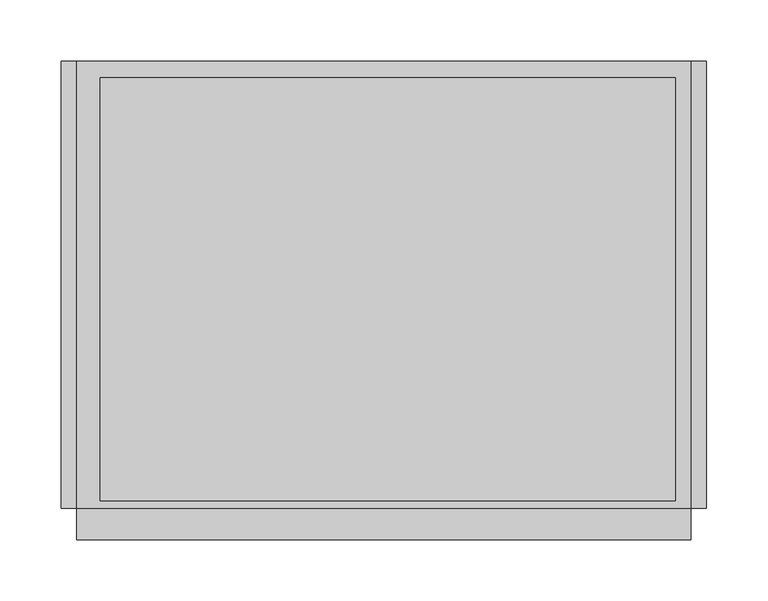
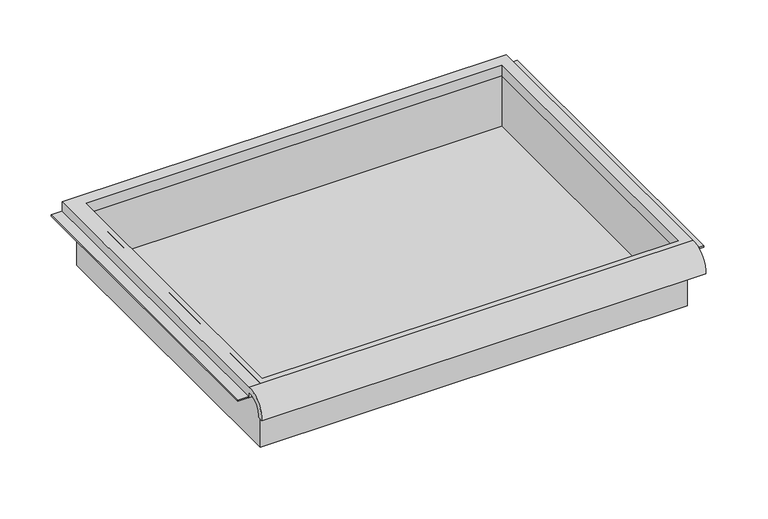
"""IFC4 building model written with IfcOpenShell, lengths in millimetres: furniture geometry."""

import ifcopenshell
import ifcopenshell.guid

model = None  # the IFC model being written
_history = None  # IfcOwnerHistory: only IFC2X3 demands one
_inside = {}  # id of a spatial element -> (the spatial element, [elements in it])
_under = {}  # id of a project, library or spatial element -> (it, [spatial elements below it])
_declared = {}  # id of a project -> (the project, [libraries it declares])
_typed = {}  # id of a type object -> (the type object, [elements of that type])
_made_of = {}  # id of a material, layer set ... -> (it, [elements and type objects made of it])


def new_model(schema):
    """Start an empty IFC model of exactly this schema.

    Asked for "IFC4X3", IfcOpenShell would pick the latest addendum, in which some entities
    have other attributes; the version numbers below select the first issue.
    IFC2X3 requires an IfcOwnerHistory on every rooted entity: one is made here for all.
    """
    global model, _history
    if schema == "IFC4X3":
        model = ifcopenshell.file(schema_version=(4, 3, 0, 0))
    else:
        model = ifcopenshell.file(schema=schema)
    _inside.clear()
    _under.clear()
    _declared.clear()
    _typed.clear()
    _made_of.clear()
    _history = None
    if model.schema == "IFC2X3":
        org = make("IfcOrganization", Name="unknown")
        user = make(
            "IfcPersonAndOrganization",
            ThePerson=make("IfcPerson", FamilyName="unknown"),
            TheOrganization=org,
        )
        app = make(
            "IfcApplication",
            ApplicationDeveloper=org,
            Version="unknown",
            ApplicationFullName="unknown",
            ApplicationIdentifier="unknown",
        )
        _history = make(
            "IfcOwnerHistory",
            OwningUser=user,
            OwningApplication=app,
            ChangeAction="ADDED",
            CreationDate=0,
        )
    return model


def make(cls, **values):
    """One entity of the class cls with the attributes given. An attribute that is None is left unset."""
    return model.create_entity(
        cls, **{name: value for name, value in values.items() if value is not None}
    )


def rooted(cls, **values):
    """An entity with a GlobalId (a new one), such as an element, a storey or a relation."""
    return make(cls, GlobalId=ifcopenshell.guid.new(), OwnerHistory=_history, **values)


def si_unit(unit_type, name, prefix=None):
    """IfcSIUnit, for example si_unit("LENGTHUNIT", "METRE", prefix="MILLI")."""
    return make("IfcSIUnit", UnitType=unit_type, Prefix=prefix, Name=name)


def assignment(units):
    """IfcUnitAssignment: the units of a project."""
    return None if units is None else make("IfcUnitAssignment", Units=units)


def point(xyz):
    """IfcCartesianPoint."""
    return None if xyz is None else make("IfcCartesianPoint", Coordinates=xyz)


def direction(xyz):
    """IfcDirection."""
    return None if xyz is None else make("IfcDirection", DirectionRatios=xyz)


def frame(location, z_axis=None, x_axis=None):
    """IfcAxis2Placement3D, a coordinate frame: its origin and axes. An axis left out is left unset."""
    return make(
        "IfcAxis2Placement3D",
        Location=point(location),
        Axis=direction(z_axis),
        RefDirection=direction(x_axis),
    )


def origin():
    """The frame at (0, 0, 0) with its axes left unset."""
    return frame((0.0, 0.0, 0.0))


def place(relative_to, where):
    """IfcLocalPlacement: puts the frame where relative to a parent placement (None: the world)."""
    return make(
        "IfcLocalPlacement", PlacementRelTo=relative_to, RelativePlacement=where
    )


def context(
    kind, dimensions, precision=None, world=None, true_north=None, identifier=None
):
    """IfcGeometricRepresentationContext, for example the 3D "Model" context."""
    return make(
        "IfcGeometricRepresentationContext",
        ContextIdentifier=identifier,
        ContextType=kind,
        CoordinateSpaceDimension=dimensions,
        Precision=precision,
        WorldCoordinateSystem=world,
        TrueNorth=true_north,
    )


def project(units=None, contexts=None):
    """IfcProject with its units and contexts."""
    return rooted(
        "IfcProject",
        Name="project",
        RepresentationContexts=contexts,
        UnitsInContext=assignment(units),
    )


def spatial(cls, under=None, at=None, **own):
    """A site, building, storey or space (cls), placed at a placement, below another one or the project."""
    s = rooted(cls, ObjectPlacement=at, **own)
    if under is not None:
        _under.setdefault(under.id(), (under, []))[1].append(s)
    return s


def polyline(points):
    """IfcPolyline through the points."""
    return make("IfcPolyline", Points=[point(p) for p in points])


def circle_curve(where, radius):
    """IfcCircle in the frame where."""
    return make("IfcCircle", Position=where, Radius=radius)


def faces_of(points, faces, orient=None, outer=None):
    """IfcFace entities. A face is a list of loops; a loop is a list of indices into points, from 0.

    orient and outer hold one flag for each loop. By default every Orientation is true, the
    first loop of a face is its IfcFaceOuterBound and the others are IfcFaceBound.
    """
    made = []
    for i, loops in enumerate(faces):
        bounds = []
        for j, loop in enumerate(loops):
            is_outer = j == 0 if outer is None else outer[i][j]
            bounds.append(
                make(
                    "IfcFaceOuterBound" if is_outer else "IfcFaceBound",
                    Bound=make("IfcPolyLoop", Polygon=[points[k] for k in loop]),
                    Orientation=True if orient is None else orient[i][j],
                )
            )
        made.append(make("IfcFace", Bounds=bounds))
    return made


def faceted_brep(points, faces, orient=None, outer=None, voids=None):
    """IfcFacetedBrep: a solid bounded by flat faces; with voids (closed shells), ...WithVoids."""
    shared = [point(p) for p in points]
    hull = make("IfcClosedShell", CfsFaces=faces_of(shared, faces, orient, outer))
    if voids is None:
        return make("IfcFacetedBrep", Outer=hull)
    return make(
        "IfcFacetedBrepWithVoids",
        Outer=hull,
        Voids=[
            make(cls, CfsFaces=faces_of(shared, fs, o, b)) for cls, fs, o, b in voids
        ],
    )


def shape(context_of_items, identifier, shape_type, items):
    """IfcShapeRepresentation: the items that make up one representation, for example the "Body"."""
    return make(
        "IfcShapeRepresentation",
        ContextOfItems=context_of_items,
        RepresentationIdentifier=identifier,
        RepresentationType=shape_type,
        Items=items,
    )


def source(mapping_origin, context_of_items, identifier, shape_type, items):
    """IfcRepresentationMap: a shape defined once, which mapped items show again and again."""
    return make(
        "IfcRepresentationMap",
        MappingOrigin=mapping_origin,
        MappedRepresentation=shape(context_of_items, identifier, shape_type, items),
    )


def transform(
    local_origin,
    x_axis=None,
    y_axis=None,
    z_axis=None,
    scale=None,
    scale2=None,
    scale3=None,
    uniform=True,
):
    """IfcCartesianTransformationOperator3D, or its non-uniform kind. x_axis, y_axis, z_axis: its Axis1, 2, 3."""
    if uniform:
        return make(
            "IfcCartesianTransformationOperator3D",
            Axis1=direction(x_axis),
            Axis2=direction(y_axis),
            LocalOrigin=point(local_origin),
            Scale=scale,
            Axis3=direction(z_axis),
        )
    return make(
        "IfcCartesianTransformationOperator3DnonUniform",
        Axis1=direction(x_axis),
        Axis2=direction(y_axis),
        LocalOrigin=point(local_origin),
        Scale=scale,
        Axis3=direction(z_axis),
        Scale2=scale2,
        Scale3=scale3,
    )


def mapped(mapping_source, mapping_target):
    """IfcMappedItem: shows the shape of a source again, moved by a transform."""
    return make(
        "IfcMappedItem", MappingSource=mapping_source, MappingTarget=mapping_target
    )


def made_of(thing, what):
    """Note that an element or type object is made of a material, layer set ...; save() writes the relation."""
    if what is not None:
        _made_of.setdefault(what.id(), (what, []))[1].append(thing)
    return thing


def element(
    cls,
    number,
    at=None,
    inside=None,
    cuts=None,
    type_object=None,
    material=None,
    context=None,
    identifier="Body",
    shape_type=None,
    held_by="IfcProductDefinitionShape",
    body=None,
    shapes=None,
    **own,
):
    """One element of the class cls, such as IfcWall. Its Tag is "e" and its number.

    at: its placement. inside: the storey or other place that contains it. cuts: it is an
    opening in that element (IfcRelVoidsElement). A single representation is given by context,
    identifier, shape_type and body (its items); several are given by shapes. held_by: the class
    of the entity that holds the representations. save() writes the other relations.
    """
    e = rooted(cls, Tag="e%d" % number, ObjectPlacement=at, **own)
    if body is not None:
        shapes = [shape(context, identifier, shape_type, body)]
    if shapes is not None:
        e.Representation = make(held_by, Representations=shapes)
    if inside is not None:
        _inside.setdefault(inside.id(), (inside, []))[1].append(e)
    if cuts is not None:
        rooted(
            "IfcRelVoidsElement", RelatingBuildingElement=cuts, RelatedOpeningElement=e
        )
    if type_object is not None:
        _typed.setdefault(type_object.id(), (type_object, []))[1].append(e)
    return made_of(e, material)


def aggregate(whole, parts):
    """IfcRelAggregates: a whole, such as a stair, and the parts it consists of."""
    return rooted("IfcRelAggregates", RelatingObject=whole, RelatedObjects=parts)


def save(model, path):
    """Write the relations noted so far, then the file.

    IfcRelAggregates (storeys below a building ...), IfcRelContainedInSpatialStructure (elements
    in a storey), IfcRelDefinesByType, IfcRelAssociatesMaterial and IfcRelDeclares: one each for
    every whole, place, type object, material and project.
    """
    for whole, parts in _under.values():
        aggregate(whole, parts)
    for where, things in _inside.values():
        rooted(
            "IfcRelContainedInSpatialStructure",
            RelatedElements=things,
            RelatingStructure=where,
        )
    for kind, things in _typed.values():
        rooted("IfcRelDefinesByType", RelatedObjects=things, RelatingType=kind)
    for what, things in _made_of.values():
        rooted("IfcRelAssociatesMaterial", RelatedObjects=things, RelatingMaterial=what)
    for by, libraries in _declared.values():
        rooted("IfcRelDeclares", RelatingContext=by, RelatedDefinitions=libraries)
    model.write(path)


def plane_surface(at):
    """IfcPlane: the flat surface through the origin of the frame at, square to its z axis."""
    return make("IfcPlane", Position=at)


def cylinder_surface(at, radius):
    """IfcCylindricalSurface: all points at the distance radius from the z axis of the frame at."""
    return make("IfcCylindricalSurface", Position=at, Radius=radius)


def revolved_surface(curve, axis_point, axis_direction):
    """IfcSurfaceOfRevolution: the curve turned about the line through axis_point along axis_direction."""
    return make(
        "IfcSurfaceOfRevolution",
        SweptCurve=make("IfcArbitraryOpenProfileDef", ProfileType="CURVE", Curve=curve),
        AxisPosition=make("IfcAxis1Placement", Location=point(axis_point), Axis=direction(axis_direction)),
    )


def advanced_brep(points, edges, surfaces, faces):
    """IfcAdvancedBrep: a solid bounded by faces that lie on surfaces and meet in shared edges.

    An edge is (start, end): straight between two places in points (the first is 0);
    or (start, end, curve); or (start, end, curve, False) where it runs against its curve.
    A face is (place in surfaces, loops), or (place, loops, False) where it looks against
    its surface's normal. A loop lists edges by number (the first is 1), with a minus sign
    where the edge is run from its end to its start. The first loop is the outer one.
    """
    corners = [point(p) for p in points]
    vertices = [make("IfcVertexPoint", VertexGeometry=c) for c in corners]
    made = []
    for start, end, *more in edges:
        made.append(
            make(
                "IfcEdgeCurve",
                EdgeStart=vertices[start],
                EdgeEnd=vertices[end],
                EdgeGeometry=more[0] if more else make("IfcPolyline", Points=[corners[start], corners[end]]),
                SameSense=more[1] if len(more) > 1 else True,
            )
        )
    hull = []
    for where, loops, *sense in faces:
        bounds = []
        for j, loop in enumerate(loops):
            ring = [make("IfcOrientedEdge", EdgeElement=made[abs(k) - 1], Orientation=k > 0) for k in loop]
            bounds.append(
                make(
                    "IfcFaceOuterBound" if j == 0 else "IfcFaceBound",
                    Bound=make("IfcEdgeLoop", EdgeList=ring),
                    Orientation=True,
                )
            )
        hull.append(make("IfcAdvancedFace", Bounds=bounds, FaceSurface=surfaces[where], SameSense=sense[0] if sense else True))
    return make("IfcAdvancedBrep", Outer=make("IfcClosedShell", CfsFaces=hull))


def furniture_90ba0c3f(model_context):
    return source(origin(), model_context, "Body", "SolidModel", [
        advanced_brep(
        [(263.7474999, -195.297482, 434.1849518), (263.7474999, -188.9125, 434.1849518), (263.7474999, -169.8625, 452.446425), (263.7474999, -169.8625, 446.0964246), (263.7474999, 195.2625, 446.0964246), (263.7474999, 195.2625, 458.796425), (263.7474999, -169.8625, 458.796425), (-237.9025001, -195.297482, 434.1849518), (-237.9025001, -169.8625, 458.796425), (-237.9025001, 195.2625, 458.796425), (-237.9025001, 195.2625, 446.0964246), (-237.9025001, -169.8625, 446.0964246), (-237.9025001, -169.8625, 452.446425), (-237.9025001, -188.9125, 434.1849518), (251.0474878, 181.9275, 446.0964246), (-218.8095642, 181.9275, 446.0964246), (-218.8095642, -163.5125, 446.0964246), (251.0474878, -163.5125, 446.0964246), (-218.8095642, 181.9275, 458.796425), (251.0474878, 181.9275, 458.796425), (251.0474878, -163.5125, 458.796425), (-218.8095642, -163.5125, 458.796425)],
        [
            (0, 1),
            (1, 2, circle_curve(frame((263.7474999, -172.3404634, 435.9643622), z_axis=(-1.0, 0.0, 0.0), x_axis=(0.0, 1.0, 0.0)), 16.6672942)),
            (2, 3),
            (3, 4),
            (4, 5),
            (5, 6),
            (6, 0, circle_curve(frame((263.7474999, -172.4601678, 436.0322522), z_axis=(1.0, 0.0, 0.0), x_axis=(0.0, 1.0, 0.0)), 22.9119061)),
            (7, 8, circle_curve(frame((-237.9025001, -172.4601678, 436.0322522), z_axis=(-1.0, 0.0, 0.0), x_axis=(0.0, 1.0, 0.0)), 22.9119061)),
            (8, 9),
            (9, 10),
            (10, 11),
            (11, 12),
            (12, 13, circle_curve(frame((-237.9025001, -172.3404634, 435.9643622), z_axis=(1.0, 0.0, 0.0), x_axis=(0.0, 1.0, 0.0)), 16.6672942)),
            (13, 7),
            (0, 7),
            (13, 1),
            (12, 2),
            (11, 3),
            (10, 4),
            (14, 15),
            (15, 16),
            (16, 17),
            (17, 14),
            (9, 5),
            (8, 6),
            (18, 19),
            (19, 20),
            (20, 21),
            (21, 18),
            (14, 19),
            (18, 15),
            (21, 16),
            (20, 17),
        ],
        [
            plane_surface(frame((263.7474999, -195.297482, 434.1849518), z_axis=(1.0, 0.0, 0.0), x_axis=(0.0, 1.0, 0.0))),
            plane_surface(frame((-237.9025001, -195.297482, 434.1849518), z_axis=(-1.0, 0.0, 0.0), x_axis=(0.0, -1.0, 0.0))),
            plane_surface(frame((263.7474999, -195.297482, 434.1849518), z_axis=(0.0, 0.0, -1.0), x_axis=(-1.0, 0.0, 0.0))),
            revolved_surface(polyline([(-237.9025001, -155.67316920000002, 435.9643622), (263.7474999, -155.67316920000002, 435.9643622)]), (-237.9025001, -172.3404634, 435.9643622), (-1.0, 0.0, 0.0)),
            plane_surface(frame((263.7474999, -169.8625, 452.446425), z_axis=(0.0, -1.0, 0.0), x_axis=(-1.0, 0.0, 0.0))),
            plane_surface(frame((263.7474999, -169.8625, 446.0964246), z_axis=(0.0, 0.0, -1.0), x_axis=(-1.0, 0.0, 0.0))),
            plane_surface(frame((263.7474999, 195.2625, 446.0964246), z_axis=(0.0, 1.0, 0.0), x_axis=(-1.0, 0.0, 0.0))),
            plane_surface(frame((263.7474999, 195.2625, 458.796425), z_axis=(0.0, 0.0, 1.0), x_axis=(-1.0, 0.0, 0.0))),
            cylinder_surface(frame((-237.9025001, -172.4601678, 436.0322522), z_axis=(1.0, 0.0, 0.0), x_axis=(0.0, 1.0, 0.0)), 22.9119061),
            plane_surface(frame((251.0474878, 181.9275, 458.796425), z_axis=(0.0, -1.0, 0.0), x_axis=(0.0, 0.0, -1.0))),
            plane_surface(frame((-218.8095642, 181.9275, 458.796425), z_axis=(1.0, 0.0, 0.0), x_axis=(0.0, 0.0, -1.0))),
            plane_surface(frame((-218.8095642, -163.5125, 458.796425), z_axis=(0.0, 1.0, 0.0), x_axis=(0.0, 0.0, -1.0))),
            plane_surface(frame((251.0474878, -163.5125, 458.796425), z_axis=(-1.0, 0.0, 0.0), x_axis=(0.0, 0.0, -1.0))),
        ],
        [
            (0, [[1, 2, 3, 4, 5, 6, 7]]),
            (1, [[8, 9, 10, 11, 12, 13, 14]]),
            (2, [[-1, 15, -14, 16]]),
            (3, [[-2, -16, -13, 17]]),
            (4, [[-3, -17, -12, 18]]),
            (5, [[-4, -18, -11, 19], [20, 21, 22, 23]]),
            (6, [[-5, -19, -10, 24]]),
            (7, [[-6, -24, -9, 25], [26, 27, 28, 29]]),
            (8, [[-7, -25, -8, -15]]),
            (9, [[30, -26, 31, -20]]),
            (10, [[-31, -29, 32, -21]]),
            (11, [[-32, -28, 33, -22]]),
            (12, [[-30, -23, -33, -27]]),
        ],
    ),
        faceted_brep([(-225.2025001, -169.8625, 382.596425), (257.3974878, -169.8625, 382.596425), (257.3974878, -169.8625, 458.796425), (-225.2025001, -169.8625, 458.796425), (-225.2025001, 188.9125, 382.596425), (-225.2025001, 188.9125, 458.796425), (257.3974878, 188.9125, 458.796425), (257.3974878, 188.9125, 382.596425), (-218.8095642, 181.9275, 458.796425), (251.0474878, 181.9275, 458.796425), (251.0474878, -163.5125, 458.796425), (-218.8095642, -163.5125, 458.796425), (251.0474878, 181.9275, 385.771425), (-218.8095642, 181.9275, 385.771425), (-218.8095642, -163.5125, 385.771425), (251.0474878, -163.5125, 385.771425)], [[[0, 1, 2, 3]], [[4, 5, 6, 7]], [[1, 0, 4, 7]], [[2, 1, 7, 6]], [[3, 2, 6, 5], [8, 9, 10, 11]], [[0, 3, 5, 4]], [[12, 13, 14, 15]], [[13, 12, 9, 8]], [[14, 13, 8, 11]], [[15, 14, 11, 10]], [[12, 15, 10, 9]]]),
        faceted_brep([(-250.6025001, 195.2625, 446.0964246), (-250.6025001, 195.2625, 447.6839246), (-231.5525001, 195.2625, 447.6839246), (-231.5525001, 195.2625, 446.0964246), (-250.6025001, -169.8625, 446.0964246), (-231.5525001, -169.8625, 446.0964246), (-231.5525001, -169.8625, 447.6839246), (-250.6025001, -169.8625, 447.6839246)], [[[0, 1, 2, 3]], [[4, 5, 6, 7]], [[1, 0, 4, 7]], [[2, 1, 7, 6]], [[3, 2, 6, 5]], [[0, 3, 5, 4]]]),
        faceted_brep([(276.4474999, 195.2625, 446.0964246), (263.7474999, 195.2625, 446.0964246), (263.7474999, 195.2625, 447.6839246), (276.4474999, 195.2625, 447.6839246), (276.4474999, -169.8625, 446.0964246), (276.4474999, -169.8625, 447.6839246), (263.7474999, -169.8625, 447.6839246), (263.7474999, -169.8625, 446.0964246)], [[[0, 1, 2, 3]], [[4, 5, 6, 7]], [[1, 0, 4, 7]], [[2, 1, 7, 6]], [[3, 2, 6, 5]], [[0, 3, 5, 4]]]),
    ])


if __name__ == "__main__":
    model = new_model("IFC4")
    model_context = context("Model", 3, world=origin())
    ifc_project = project(units=[si_unit("LENGTHUNIT", "METRE", prefix="MILLI")], contexts=[model_context])
    site = spatial("IfcSite", under=ifc_project)
    building = spatial("IfcBuilding", under=site)
    placement = place(None, origin())
    furniture_shape = furniture_90ba0c3f(model_context)
    element("IfcFurniture", 1, ObjectType="HermanMiller_Carts_CT501_Drawer : 3\"H x 15\"D x 20\"W", at=placement, inside=building, context=model_context, shape_type="MappedRepresentation", body=[
        mapped(furniture_shape, transform((0.0, 0.0, 0.0), x_axis=(1.0, 0.0, 0.0), y_axis=(0.0, 1.0, 0.0), z_axis=(0.0, 0.0, 1.0))),
    ])
    save(model, "model.ifc")
